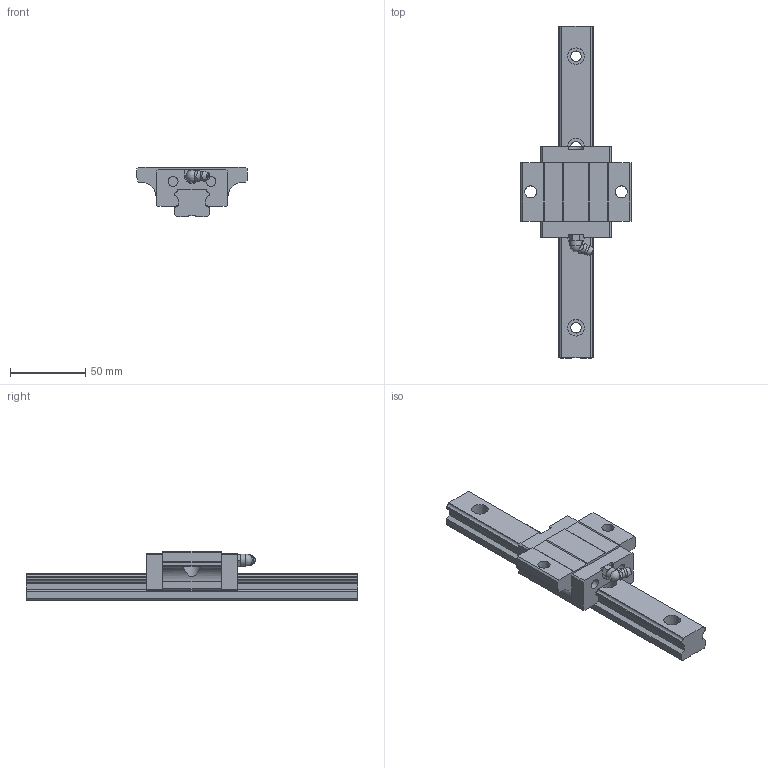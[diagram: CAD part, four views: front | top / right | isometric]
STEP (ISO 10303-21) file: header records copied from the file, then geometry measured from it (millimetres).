
FILE_DESCRIPTION(/* description */ (''),/* implementation_level */ '2;1');
FILE_NAME(/* name */ 'MSB25TE',/* time_stamp */ '2004-05-24T09:50:17+08:00',/* author */ (''),/* organization */ (''),/* preprocessor_version */ 'ST-DEVELOPER v8',/* originating_system */ '',/* authorisation */ '');
FILE_SCHEMA (('CONFIG_CONTROL_DESIGN'));
Length unit declared in the file: millimetre
Products named in the file (1): zirc812C0016
Bounding box: 73 x 220 x 33 mm (x, y, z)
Volume: 143219.6 mm3; surface area: 37571.4 mm2
Topology: 3 solids, 3 shells, 179 faces, 489 edges, 322 vertices
Faces by surface type: plane 137, cylinder 31, torus 7, sphere 2, cone 1, bspline 1
Full cylindrical faces by diameter (mm): 6.5 x6, 7 x4, 8 x3, 11 x4
Entity records: 5705 total; most frequent: CARTESIAN_POINT 1128, ORIENTED_EDGE 922, DIRECTION 908, EDGE_CURVE 461, LINE 332, VECTOR 332, VERTEX_POINT 316, AXIS2_PLACEMENT_3D 288
